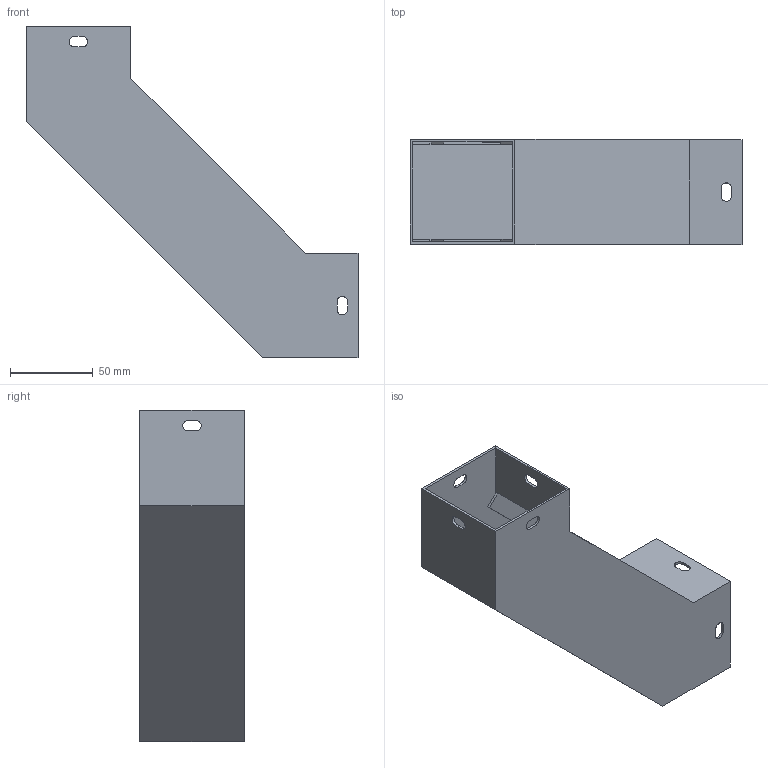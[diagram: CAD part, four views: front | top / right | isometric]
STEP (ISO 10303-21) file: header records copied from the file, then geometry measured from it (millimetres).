
FILE_DESCRIPTION((''),'1');
FILE_NAME('1','2001-04-18T',('jlue'),(''),'PRO/ENGINEER BY PARAMETRIC TECHNOLOGY CORPORATION, 9846','PRO/ENGINEER BY PARAMETRIC TECHNOLOGY CORPORATION, 9846','');
FILE_SCHEMA(('CONFIG_CONTROL_DESIGN'));
Length unit declared in the file: inch
Products named in the file (1): 1
Bounding box: 200.91 x 63.5 x 200.91 mm (x, y, z)
Surface area: 132038.9 mm2 (no closed solid volume)
Topology: 0 solids, 0 shells, 82 faces, 504 edges, 504 vertices
Faces by surface type: plane 66, cylinder 16
Entity records: 2530 total; most frequent: COMPOSITE_CURVE_SEGMENT 504, DIRECTION 484, CARTESIAN_POINT 346, TRIMMED_CURVE 264, VECTOR 208, LINE 208, AXIS2_PLACEMENT_3D 138, CURVE_BOUNDED_SURFACE 82
